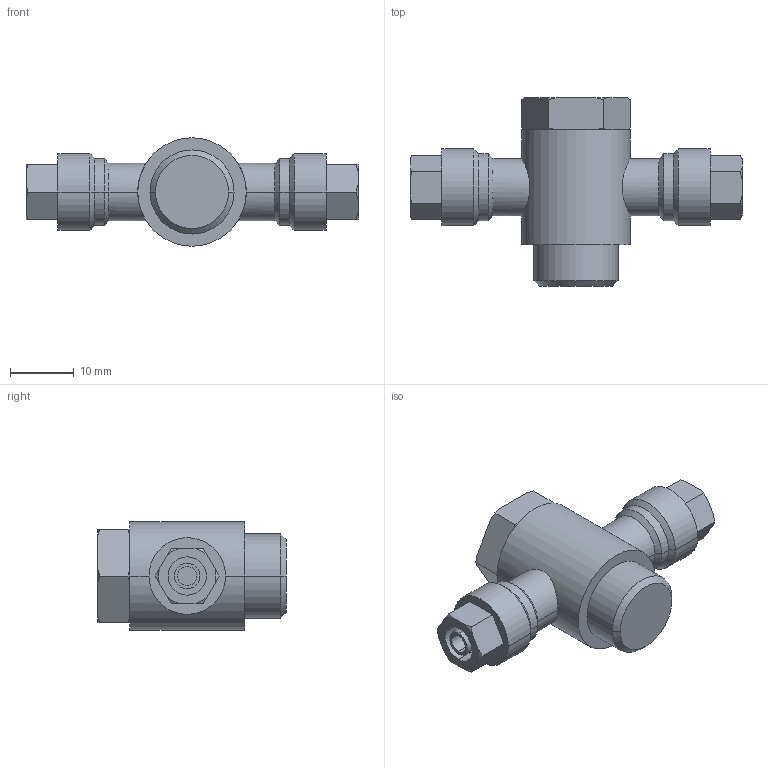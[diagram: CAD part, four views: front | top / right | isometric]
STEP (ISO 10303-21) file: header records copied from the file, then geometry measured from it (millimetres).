
FILE_DESCRIPTION((''),'2;1');
FILE_NAME('1823391006','2015-04-08T',('vol1hc'),(''),'PRO/ENGINEER BY PARAMETRIC TECHNOLOGY CORPORATION, 2009380','PRO/ENGINEER BY PARAMETRIC TECHNOLOGY CORPORATION, 2009380','');
FILE_SCHEMA(('CONFIG_CONTROL_DESIGN'));
Length unit declared in the file: millimetre
Products named in the file (1): 1823391006
Bounding box: 52 x 29.5 x 17 mm (x, y, z)
Volume: 8669.4 mm3; surface area: 3462 mm2
Topology: 1 solids, 1 shells, 94 faces, 224 edges, 142 vertices
Faces by surface type: cone 34, plane 32, cylinder 28
Entity records: 3020 total; most frequent: CARTESIAN_POINT 816, ORIENTED_EDGE 448, DIRECTION 438, EDGE_CURVE 224, AXIS2_PLACEMENT_3D 172, VERTEX_POINT 142, EDGE_LOOP 104, VECTOR 94
